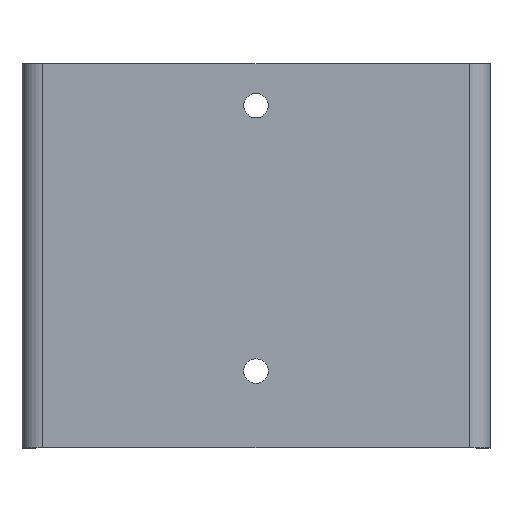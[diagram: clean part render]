
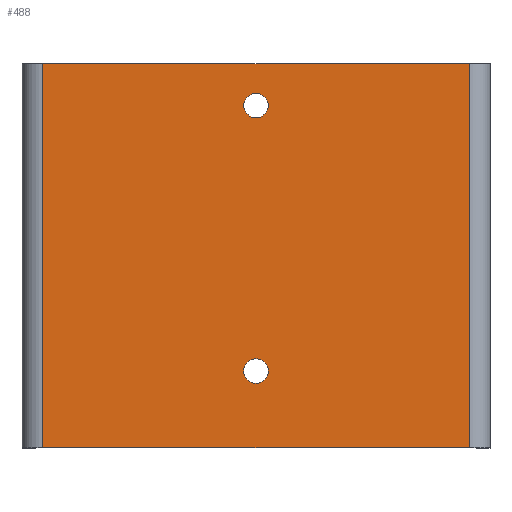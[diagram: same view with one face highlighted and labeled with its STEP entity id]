
A CAD part, top view. The second image highlights one B-rep face of the part: STEP entity #488.
In plain terms, the highlighted planar face has unit normal (0, 0, 1).
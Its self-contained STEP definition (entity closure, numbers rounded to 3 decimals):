
#44=FACE_BOUND('',#113,.T.);
#45=FACE_BOUND('',#114,.T.);
#52=CIRCLE('',#541,1.75);
#53=CIRCLE('',#542,1.75);
#84=FACE_OUTER_BOUND('',#112,.T.);
#112=EDGE_LOOP('',(#396,#397,#398,#399));
#113=EDGE_LOOP('',(#400));
#114=EDGE_LOOP('',(#401));
#155=LINE('',#760,#205);
#163=LINE('',#781,#213);
#166=LINE('',#787,#216);
#167=LINE('',#788,#217);
#205=VECTOR('',#611,10.);
#213=VECTOR('',#639,10.);
#216=VECTOR('',#644,10.);
#217=VECTOR('',#645,10.);
#250=VERTEX_POINT('',#757);
#251=VERTEX_POINT('',#759);
#254=VERTEX_POINT('',#780);
#256=VERTEX_POINT('',#786);
#257=VERTEX_POINT('',#789);
#258=VERTEX_POINT('',#791);
#292=EDGE_CURVE('',#251,#250,#155,.T.);
#303=EDGE_CURVE('',#251,#254,#163,.T.);
#306=EDGE_CURVE('',#256,#250,#166,.T.);
#307=EDGE_CURVE('',#256,#254,#167,.T.);
#308=EDGE_CURVE('',#257,#257,#52,.T.);
#309=EDGE_CURVE('',#258,#258,#53,.T.);
#396=ORIENTED_EDGE('',*,*,#292,.T.);
#397=ORIENTED_EDGE('',*,*,#306,.F.);
#398=ORIENTED_EDGE('',*,*,#307,.T.);
#399=ORIENTED_EDGE('',*,*,#303,.F.);
#400=ORIENTED_EDGE('',*,*,#308,.T.);
#401=ORIENTED_EDGE('',*,*,#309,.T.);
#464=PLANE('',#540);
#488=ADVANCED_FACE('',(#84,#44,#45),#464,.T.);
#540=AXIS2_PLACEMENT_3D('',#785,#642,#643);
#541=AXIS2_PLACEMENT_3D('',#790,#646,#647);
#542=AXIS2_PLACEMENT_3D('',#792,#648,#649);
#611=DIRECTION('',(0.,1.,0.));
#639=DIRECTION('',(-1.,0.,0.));
#642=DIRECTION('center_axis',(0.,0.,1.));
#643=DIRECTION('ref_axis',(1.,0.,0.));
#644=DIRECTION('',(1.,0.,0.));
#645=DIRECTION('',(0.,-1.,0.));
#646=DIRECTION('center_axis',(0.,0.,-1.));
#647=DIRECTION('ref_axis',(-1.,0.,0.));
#648=DIRECTION('center_axis',(0.,0.,-1.));
#649=DIRECTION('ref_axis',(-1.,0.,0.));
#757=CARTESIAN_POINT('',(30.5,27.5,0.));
#759=CARTESIAN_POINT('',(30.5,-27.5,0.));
#760=CARTESIAN_POINT('',(30.5,-13.75,0.));
#780=CARTESIAN_POINT('',(-30.5,-27.5,0.));
#781=CARTESIAN_POINT('',(33.5,-27.5,0.));
#785=CARTESIAN_POINT('Origin',(0.,0.,
0.));
#786=CARTESIAN_POINT('',(-30.5,27.5,0.));
#787=CARTESIAN_POINT('',(-33.5,27.5,0.));
#788=CARTESIAN_POINT('',(-30.5,13.75,0.));
#789=CARTESIAN_POINT('',(1.75,21.5,0.));
#790=CARTESIAN_POINT('Origin',(0.,21.5,0.));
#791=CARTESIAN_POINT('',(1.75,-16.5,0.));
#792=CARTESIAN_POINT('Origin',(0.,-16.5,0.));
